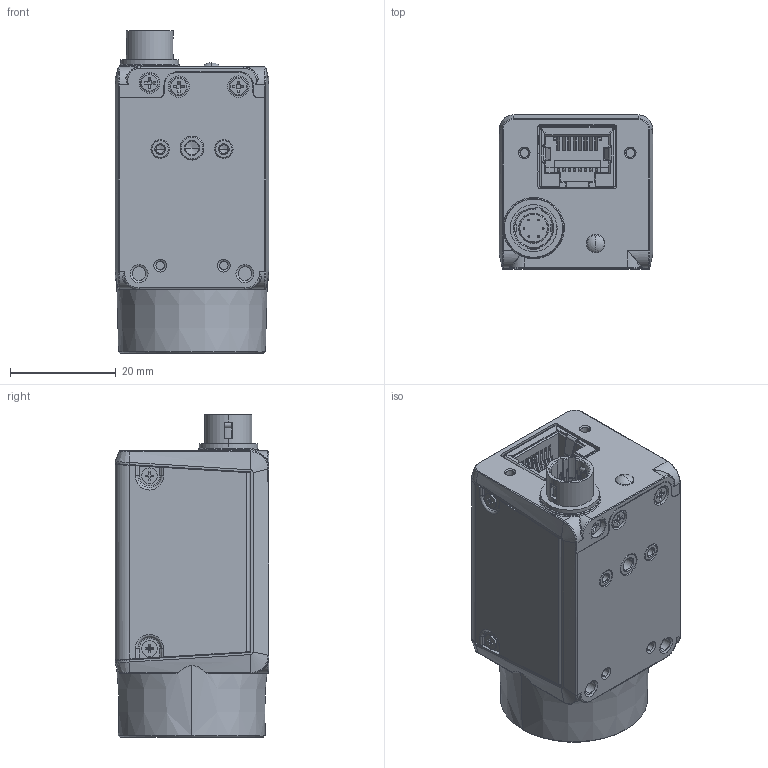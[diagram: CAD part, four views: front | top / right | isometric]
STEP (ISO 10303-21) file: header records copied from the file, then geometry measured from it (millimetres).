
FILE_DESCRIPTION((''),'2;1');
FILE_NAME('DH3-0195-6230_1','2023-11-24T14:13:46',('401332'),(''),'CREO PARAMETRIC BY PTC INC, 2020184','CREO PARAMETRIC BY PTC INC, 2020184','');
FILE_SCHEMA(('CONFIG_CONTROL_DESIGN','SHAPE_APPEARANCE_LAYERS_GROUPS'));
Products named in the file (1): DH3-0195-6230_1
Bounding box: 29 x 29.05 x 60.9 mm (x, y, z)
Volume: 30619.8 mm3; surface area: 23011.2 mm2
Topology: 1 solids, 15 shells, 2400 faces, 6632 edges, 4259 vertices
Faces by surface type: plane 1259, cylinder 656, bspline 208, cone 169, torus 67, extrusion 36, sphere 5
Entity records: 117176 total; most frequent: CARTESIAN_POINT 30775, ORIENTED_EDGE 13224, DIRECTION 11451, PRESENTATION_STYLE_ASSIGNMENT 7533, STYLED_ITEM 6650, CURVE_STYLE 6618, EDGE_CURVE 6612, VERTEX_POINT 4297
